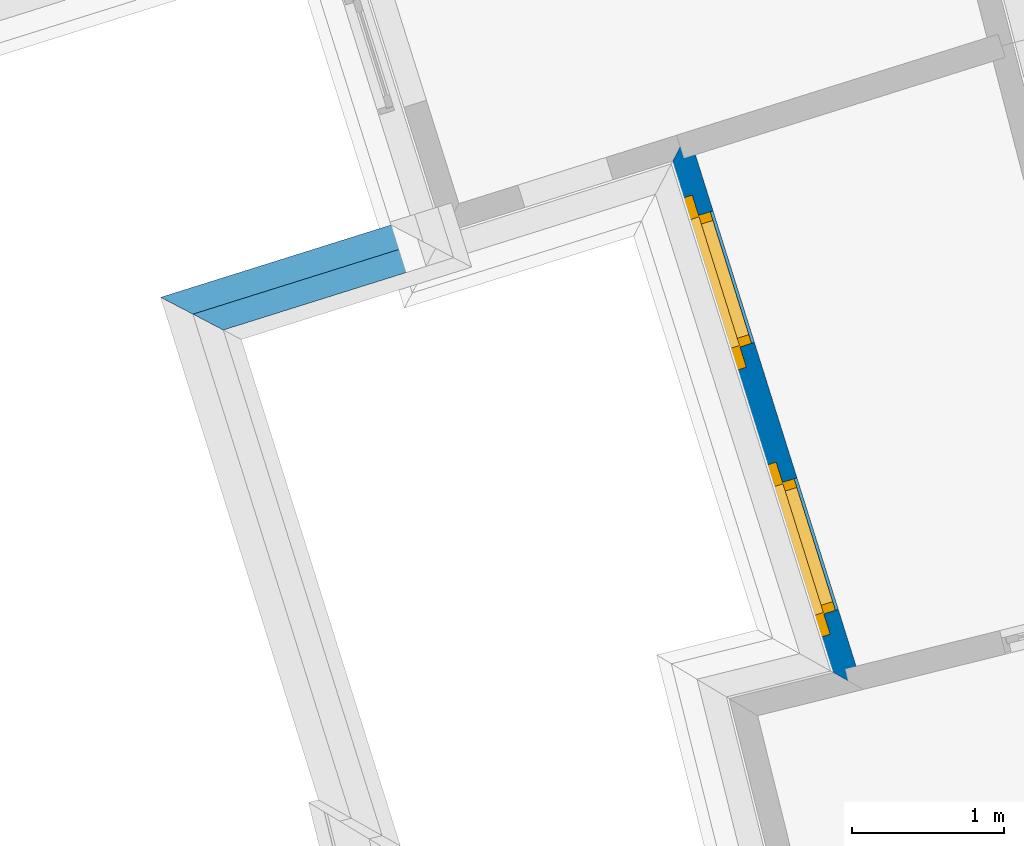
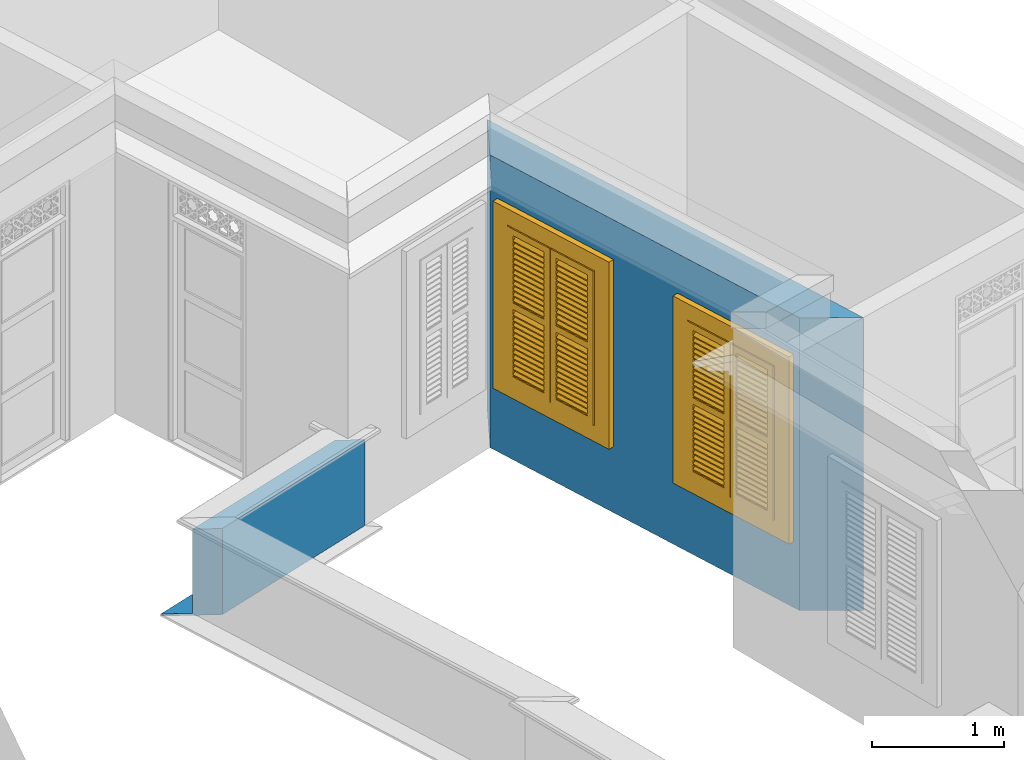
# One storey, part 8 of 13: 2 walls, 2 windows, 2 openings.
"""IFC4 building model written with IfcOpenShell, lengths in metres."""

from ifc_helpers import new_model, si_unit, frame, origin, origin_with_axes, place, context, subcontext, project, spatial, polyline, outline, extrude, clip, halfspace, faceted_brep, source, transform, mapped, material, layer, layer_set, layer_usage, material_profile, profile_set, profile_usage, type_object, type_shapes, element, fill, save


model = new_model("IFC4")

# Units and contexts
model_context = context("Model", 3, world=origin_with_axes())
body_context = subcontext(model_context, "Body", "Model", "MODEL_VIEW")
ifc_project = project(units=[si_unit("PLANEANGLEUNIT", "RADIAN"), si_unit("MASSUNIT", "GRAM", prefix="KILO"), si_unit("FORCEUNIT", "NEWTON", prefix="KILO"), si_unit("LENGTHUNIT", "METRE"), si_unit("AREAUNIT", "SQUARE_METRE"), si_unit("VOLUMEUNIT", "CUBIC_METRE")], contexts=[model_context, model_context])

# Site, building, storey
site_placement = place(None, origin_with_axes())
site = spatial("IfcSite", under=ifc_project, at=site_placement, Name="Site plot-0", CompositionType="ELEMENT")
building_placement = place(None, origin_with_axes())
building = spatial("IfcBuilding", under=site, at=building_placement, Name="Building plot-0", CompositionType="ELEMENT")
storey_placement = place(None, frame((0.0, 0.0, 3.6), z_axis=(0.0, 0.0, 1.0), x_axis=(1.0, 0.0, 0.0)))
storey = spatial("IfcBuildingStorey", under=building, at=storey_placement, Name="plot-0 1", CompositionType="ELEMENT", Elevation=3.6)

# Wall, openings, windows
ifc_material = material(Name="Masonry")
ifc_layer = layer(ifc_material, 0.33, ventilated=False)
ifc_layer_set = layer_set([ifc_layer], Name="exterior_0.08_0.25")
ifc_layer_usage = layer_usage(ifc_layer_set, "AXIS2", "POSITIVE", -0.25)
wall_type_1 = type_object("IfcWallType", Name="exterior_0.08_0.25", PredefinedType="SOLIDWALL", material=ifc_layer_set)
wall_1_placement = place(storey_placement, frame((6.33844303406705, 9.76988483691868, 0.0), z_axis=(0.0, 0.0, 1.0), x_axis=(0.299724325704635, -0.954025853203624, 0.0)))
wall_1 = element("IfcWall", 1, at=wall_1_placement, inside=storey, type_object=wall_type_1, material=ifc_layer_usage, Name="exterior", context=body_context, shape_type="SweptSolid", body=[
    extrude(outline(polyline([(-0.0799999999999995, 0.08), (0.249999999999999, -0.250000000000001), (3.4270756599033, -0.25), (3.77777085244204, 0.0799999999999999), (-0.0799999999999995, 0.08)])), origin_with_axes(), (0.0, 0.0, 1.0), 2.7),
])
opening_1_placement = place(wall_1_placement, frame((0.468188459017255, 0.0, 0.75)))
opening_1 = element("IfcOpeningElement", 2, at=opening_1_placement, cuts=wall_1, Name="My Opening", ObjectType="Opening", context=body_context, shape_type="SweptSolid", body=[
    extrude(outline(polyline([(0.0, -0.270000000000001), (0.910000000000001, -0.270000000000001), (0.91, 1.1), (-1.66533453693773e-16, 1.1), (0.0, -0.270000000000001)])), origin_with_axes(), (0.0, 0.0, 1.0), 1.445),
])
opening_2_placement = place(wall_1_placement, frame((2.31456537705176, 0.0, 0.75)))
opening_2 = element("IfcOpeningElement", 3, at=opening_2_placement, cuts=wall_1, Name="My Opening", ObjectType="Opening", context=body_context, shape_type="SweptSolid", body=[
    extrude(outline(polyline([(0.0, -0.27), (0.91, -0.27), (0.91, 1.1), (0.0, 1.1), (0.0, -0.27)])), origin_with_axes(), (0.0, 0.0, 1.0), 1.445),
])
window_type = type_object("IfcWindowType", Name="shuttered_shorter", PartitioningType="DOUBLE_PANEL_HORIZONTAL", PredefinedType="NOTDEFINED")
shared_shape = source(origin(), body_context, "Body", "Brep", [
    faceted_brep([(0.393, 0.0, 0.622), (0.074, 0.0, 0.622), (0.074, 0.0, 0.632), (0.393, 0.0, 0.632), (0.074, -0.04, 0.592), (0.393, -0.04, 0.592), (0.393, -0.04, 0.582), (0.074, -0.04, 0.582), (0.517, 0.0, 0.682), (0.836, 0.0, 0.682), (0.836, 0.0, 0.672), (0.517, 0.0, 0.672), (0.517, -0.04, 0.642), (0.836, -0.04, 0.642), (0.836, -0.04, 0.632), (0.517, -0.04, 0.632), (0.517, 0.0, 0.632), (0.836, 0.0, 0.632), (0.836, 0.0, 0.622), (0.517, 0.0, 0.622), (0.517, -0.04, 0.592), (0.836, -0.04, 0.592), (0.836, -0.04, 0.582), (0.517, -0.04, 0.582), (0.517, 0.0, 0.232), (0.836, 0.0, 0.232), (0.836, 0.0, 0.222), (0.517, 0.0, 0.222), (0.517, -0.04, 0.192), (0.836, -0.04, 0.192), (0.836, -0.04, 0.182), (0.517, -0.04, 0.182), (0.517, 0.0, 0.532), (0.836, 0.0, 0.532), (0.836, 0.0, 0.522), (0.517, 0.0, 0.522), (0.517, -0.04, 0.492), (0.836, -0.04, 0.492), (0.836, -0.04, 0.482), (0.517, -0.04, 0.482), (0.517, 0.0, 0.482), (0.836, 0.0, 0.482), (0.836, 0.0, 0.472), (0.517, 0.0, 0.472), (0.517, -0.04, 0.442), (0.836, -0.04, 0.442), (0.836, -0.04, 0.432), (0.517, -0.04, 0.432), (0.517, 0.0, 0.582), (0.836, 0.0, 0.582), (0.836, 0.0, 0.572), (0.517, 0.0, 0.572), (0.517, -0.04, 0.542), (0.836, -0.04, 0.542), (0.836, -0.04, 0.532), (0.517, -0.04, 0.532), (0.517, 0.0, 0.182), (0.836, 0.0, 0.182), (0.836, 0.0, 0.172), (0.517, 0.0, 0.172), (0.517, -0.04, 0.142), (0.836, -0.04, 0.142), (0.836, -0.04, 0.132), (0.517, -0.04, 0.132), (0.517, 0.0, 0.382), (0.836, 0.0, 0.382), (0.836, 0.0, 0.372), (0.517, 0.0, 0.372), (0.517, -0.04, 0.342), (0.836, -0.04, 0.342), (0.836, -0.04, 0.332), (0.517, -0.04, 0.332), (0.517, 0.0, 0.432), (0.836, 0.0, 0.432), (0.836, 0.0, 0.422), (0.517, 0.0, 0.422), (0.517, -0.04, 0.392), (0.836, -0.04, 0.392), (0.836, -0.04, 0.382), (0.517, -0.04, 0.382), (0.517, 0.0, 0.132), (0.836, 0.0, 0.132), (0.836, 0.0, 0.122), (0.517, 0.0, 0.122), (0.517, -0.04, 0.092), (0.836, -0.04, 0.092), (0.836, -0.04, 0.082), (0.517, -0.04, 0.082), (0.517, 0.0, 0.282), (0.836, 0.0, 0.282), (0.836, 0.0, 0.272), (0.517, 0.0, 0.272), (0.517, -0.04, 0.242), (0.836, -0.04, 0.242), (0.836, -0.04, 0.232), (0.517, -0.04, 0.232), (0.517, 0.0, 0.332), (0.836, 0.0, 0.332), (0.836, 0.0, 0.322), (0.517, 0.0, 0.322), (0.517, -0.04, 0.292), (0.836, -0.04, 0.292), (0.836, -0.04, 0.282), (0.517, -0.04, 0.282), (0.517, 0.0, 1.362667), (0.836, 0.0, 1.362667), (0.836, 0.0, 1.352667), (0.517, 0.0, 1.352667), (0.517, -0.04, 1.322667), (0.836, -0.04, 1.322667), (0.836, -0.04, 1.312667), (0.517, -0.04, 1.312667), (0.517, 0.0, 1.312667), (0.836, 0.0, 1.312667), (0.836, 0.0, 1.302667), (0.517, 0.0, 1.302667), (0.517, -0.04, 1.272667), (0.836, -0.04, 1.272667), (0.836, -0.04, 1.262667), (0.517, -0.04, 1.262667), (0.517, 0.0, 0.912667), (0.836, 0.0, 0.912667), (0.836, 0.0, 0.902667), (0.517, 0.0, 0.902667), (0.517, -0.04, 0.872667), (0.836, -0.04, 0.872667), (0.836, -0.04, 0.862667), (0.517, -0.04, 0.862667), (0.517, 0.0, 1.212667), (0.836, 0.0, 1.212667), (0.836, 0.0, 1.202667), (0.517, 0.0, 1.202667), (0.517, -0.04, 1.172667), (0.836, -0.04, 1.172667), (0.836, -0.04, 1.162667), (0.517, -0.04, 1.162667), (0.517, 0.0, 1.162667), (0.836, 0.0, 1.162667), (0.836, 0.0, 1.152667), (0.517, 0.0, 1.152667), (0.517, -0.04, 1.122667), (0.836, -0.04, 1.122667), (0.836, -0.04, 1.112667), (0.517, -0.04, 1.112667), (0.517, 0.0, 1.262667), (0.836, 0.0, 1.262667), (0.836, 0.0, 1.252667), (0.517, 0.0, 1.252667), (0.517, -0.04, 1.222667), (0.836, -0.04, 1.222667), (0.836, -0.04, 1.212667), (0.517, -0.04, 1.212667), (0.517, 0.0, 0.862667), (0.836, 0.0, 0.862667), (0.836, 0.0, 0.852667), (0.517, 0.0, 0.852667), (0.517, -0.04, 0.822667), (0.836, -0.04, 0.822667), (0.836, -0.04, 0.812667), (0.517, -0.04, 0.812667), (0.517, 0.0, 1.062667), (0.836, 0.0, 1.062667), (0.836, 0.0, 1.052667), (0.517, 0.0, 1.052667), (0.517, -0.04, 1.022667), (0.836, -0.04, 1.022667), (0.836, -0.04, 1.012667), (0.517, -0.04, 1.012667), (0.517, 0.0, 1.112667), (0.836, 0.0, 1.112667), (0.836, 0.0, 1.102667), (0.517, 0.0, 1.102667), (0.517, -0.04, 1.072667), (0.836, -0.04, 1.072667), (0.836, -0.04, 1.062667), (0.517, -0.04, 1.062667), (0.517, 0.0, 0.812667), (0.836, 0.0, 0.812667), (0.836, 0.0, 0.802667), (0.517, 0.0, 0.802667), (0.517, -0.04, 0.772667), (0.836, -0.04, 0.772667), (0.836, -0.04, 0.762667), (0.517, -0.04, 0.762667), (0.517, 0.0, 0.962667), (0.836, 0.0, 0.962667), (0.836, 0.0, 0.952667), (0.517, 0.0, 0.952667), (0.517, -0.04, 0.922667), (0.836, -0.04, 0.922667), (0.836, -0.04, 0.912667), (0.517, -0.04, 0.912667), (0.517, 0.0, 1.012667), (0.836, 0.0, 1.012667), (0.836, 0.0, 1.002667), (0.517, 0.0, 1.002667), (0.517, -0.04, 0.972667), (0.836, -0.04, 0.972667), (0.836, -0.04, 0.962667), (0.517, -0.04, 0.962667), (0.074, 0.0, 0.682), (0.393, 0.0, 0.682), (0.393, 0.0, 0.672), (0.074, 0.0, 0.672), (0.074, -0.04, 0.642), (0.393, -0.04, 0.642), (0.393, -0.04, 0.632), (0.074, -0.04, 0.632), (0.074, 0.0, 0.232), (0.393, 0.0, 0.232), (0.393, 0.0, 0.222), (0.074, 0.0, 0.222), (0.074, -0.04, 0.192), (0.393, -0.04, 0.192), (0.393, -0.04, 0.182), (0.074, -0.04, 0.182), (0.074, 0.0, 0.532), (0.393, 0.0, 0.532), (0.393, 0.0, 0.522), (0.074, 0.0, 0.522), (0.074, -0.04, 0.492), (0.393, -0.04, 0.492), (0.393, -0.04, 0.482), (0.074, -0.04, 0.482), (0.074, 0.0, 0.482), (0.393, 0.0, 0.482), (0.393, 0.0, 0.472), (0.074, 0.0, 0.472), (0.074, -0.04, 0.442), (0.393, -0.04, 0.442), (0.393, -0.04, 0.432), (0.074, -0.04, 0.432), (0.074, 0.0, 0.582), (0.393, 0.0, 0.582), (0.393, 0.0, 0.572), (0.074, 0.0, 0.572), (0.074, -0.04, 0.542), (0.393, -0.04, 0.542), (0.393, -0.04, 0.532), (0.074, -0.04, 0.532), (0.074, 0.0, 0.182), (0.393, 0.0, 0.182), (0.393, 0.0, 0.172), (0.074, 0.0, 0.172), (0.074, -0.04, 0.142), (0.393, -0.04, 0.142), (0.393, -0.04, 0.132), (0.074, -0.04, 0.132), (0.074, 0.0, 0.382), (0.393, 0.0, 0.382), (0.393, 0.0, 0.372), (0.074, 0.0, 0.372), (0.074, -0.04, 0.342), (0.393, -0.04, 0.342), (0.393, -0.04, 0.332), (0.074, -0.04, 0.332), (0.074, 0.0, 0.432), (0.393, 0.0, 0.432), (0.393, 0.0, 0.422), (0.074, 0.0, 0.422), (0.074, -0.04, 0.392), (0.393, -0.04, 0.392), (0.393, -0.04, 0.382), (0.074, -0.04, 0.382), (0.074, 0.0, 0.132), (0.393, 0.0, 0.132), (0.393, 0.0, 0.122), (0.074, 0.0, 0.122), (0.074, -0.04, 0.092), (0.393, -0.04, 0.092), (0.393, -0.04, 0.082), (0.074, -0.04, 0.082), (0.074, 0.0, 0.282), (0.393, 0.0, 0.282), (0.393, 0.0, 0.272), (0.074, 0.0, 0.272), (0.074, -0.04, 0.242), (0.393, -0.04, 0.242), (0.393, -0.04, 0.232), (0.074, -0.04, 0.232), (0.074, 0.0, 0.332), (0.393, 0.0, 0.332), (0.393, 0.0, 0.322), (0.074, 0.0, 0.322), (0.074, -0.04, 0.292), (0.393, -0.04, 0.292), (0.393, -0.04, 0.282), (0.074, -0.04, 0.282), (0.074, 0.0, 1.362667), (0.393, 0.0, 1.362667), (0.393, 0.0, 1.352667), (0.074, 0.0, 1.352667), (0.074, -0.04, 1.322667), (0.393, -0.04, 1.322667), (0.393, -0.04, 1.312667), (0.074, -0.04, 1.312667), (0.074, 0.0, 1.312667), (0.393, 0.0, 1.312667), (0.393, 0.0, 1.302667), (0.074, 0.0, 1.302667), (0.074, -0.04, 1.272667), (0.393, -0.04, 1.272667), (0.393, -0.04, 1.262667), (0.074, -0.04, 1.262667), (0.074, 0.0, 0.912667), (0.393, 0.0, 0.912667), (0.393, 0.0, 0.902667), (0.074, 0.0, 0.902667), (0.074, -0.04, 0.872667), (0.393, -0.04, 0.872667), (0.393, -0.04, 0.862667), (0.074, -0.04, 0.862667), (0.074, 0.0, 1.212667), (0.393, 0.0, 1.212667), (0.393, 0.0, 1.202667), (0.074, 0.0, 1.202667), (0.074, -0.04, 1.172667), (0.393, -0.04, 1.172667), (0.393, -0.04, 1.162667), (0.074, -0.04, 1.162667), (0.074, 0.0, 1.162667), (0.393, 0.0, 1.162667), (0.393, 0.0, 1.152667), (0.074, 0.0, 1.152667), (0.074, -0.04, 1.122667), (0.393, -0.04, 1.122667), (0.393, -0.04, 1.112667), (0.074, -0.04, 1.112667), (0.074, 0.0, 1.262667), (0.393, 0.0, 1.262667), (0.393, 0.0, 1.252667), (0.074, 0.0, 1.252667), (0.074, -0.04, 1.222667), (0.393, -0.04, 1.222667), (0.393, -0.04, 1.212667), (0.074, -0.04, 1.212667), (0.074, 0.0, 0.862667), (0.393, 0.0, 0.862667), (0.393, 0.0, 0.852667), (0.074, 0.0, 0.852667), (0.074, -0.04, 0.822667), (0.393, -0.04, 0.822667), (0.393, -0.04, 0.812667), (0.074, -0.04, 0.812667), (0.074, 0.0, 1.062667), (0.393, 0.0, 1.062667), (0.393, 0.0, 1.052667), (0.074, 0.0, 1.052667), (0.074, -0.04, 1.022667), (0.393, -0.04, 1.022667), (0.393, -0.04, 1.012667), (0.074, -0.04, 1.012667), (0.074, 0.0, 1.112667), (0.393, 0.0, 1.112667), (0.393, 0.0, 1.102667), (0.074, 0.0, 1.102667), (0.074, -0.04, 1.072667), (0.393, -0.04, 1.072667), (0.393, -0.04, 1.062667), (0.074, -0.04, 1.062667), (0.074, 0.0, 0.812667), (0.393, 0.0, 0.812667), (0.393, 0.0, 0.802667), (0.074, 0.0, 0.802667), (0.074, -0.04, 0.772667), (0.393, -0.04, 0.772667), (0.393, -0.04, 0.762667), (0.074, -0.04, 0.762667), (0.074, 0.0, 0.962667), (0.393, 0.0, 0.962667), (0.393, 0.0, 0.952667), (0.074, 0.0, 0.952667), (0.074, -0.04, 0.922667), (0.393, -0.04, 0.922667), (0.393, -0.04, 0.912667), (0.074, -0.04, 0.912667), (0.074, 0.0, 1.012667), (0.393, 0.0, 1.012667), (0.393, 0.0, 1.002667), (0.074, 0.0, 1.002667), (0.074, -0.04, 0.972667), (0.393, -0.04, 0.972667), (0.393, -0.04, 0.962667), (0.074, -0.04, 0.962667), (0.517, -0.04, 0.072), (0.457, -0.04, 0.012), (0.896, -0.04, 0.012), (0.836, -0.04, 0.072), (0.457, -0.04, 0.692667), (0.517, -0.04, 0.692667), (0.457, 0.0, 0.012), (0.896, 0.0, 0.012), (0.836, -0.04, 0.692667), (0.896, -0.04, 0.692667), (0.836, 0.0, 0.072), (0.517, 0.0, 0.072), (0.457, 0.0, 0.692667), (0.517, 0.0, 0.692667), (0.517, -0.04, 0.752666), (0.457, -0.04, 0.752666), (0.896, 0.0, 0.692667), (0.836, 0.0, 0.692667), (0.836, -0.04, 0.752666), (0.896, -0.04, 0.752666), (0.457, 0.0, 0.752666), (0.457, -0.04, 1.433333), (0.517, -0.04, 1.373333), (0.896, 0.0, 0.752666), (0.836, -0.04, 1.373333), (0.896, -0.04, 1.433333), (0.457, 0.0, 1.433333), (0.517, 0.0, 0.752666), (0.836, 0.0, 0.752666), (0.517, 0.0, 1.373333), (0.896, 0.0, 1.433333), (0.836, 0.0, 1.373333), (0.074, -0.04, 0.072), (0.014, -0.04, 0.012), (0.453, -0.04, 0.012), (0.393, -0.04, 0.072), (0.014, -0.04, 0.692667), (0.074, -0.04, 0.692667), (0.014, 0.0, 0.012), (0.453, 0.0, 0.012), (0.393, -0.04, 0.692667), (0.453, -0.04, 0.692667), (0.393, 0.0, 0.072), (0.074, 0.0, 0.072), (0.014, 0.0, 0.692667), (0.074, 0.0, 0.692667), (0.074, -0.04, 0.752666), (0.014, -0.04, 0.752666), (0.453, 0.0, 0.692667), (0.393, 0.0, 0.692667), (0.393, -0.04, 0.752666), (0.453, -0.04, 0.752666), (0.014, 0.0, 0.752666), (0.014, -0.04, 1.433333), (0.074, -0.04, 1.373333), (0.453, 0.0, 0.752666), (0.393, -0.04, 1.373333), (0.453, -0.04, 1.433333), (0.014, 0.0, 1.433333), (0.074, 0.0, 0.752666), (0.393, 0.0, 0.752666), (0.074, 0.0, 1.373333), (0.453, 0.0, 1.433333), (0.393, 0.0, 1.373333), (0.0, 0.33, 1.445), (0.91, 0.33, 1.445), (0.85, 0.33, 1.385), (0.06, 0.33, 1.385), (0.91, 0.25, 1.445), (0.0, 0.25, 1.445), (0.91, 0.25, 1.445), (0.85, 0.33, 0.06), (0.91, 0.33, 0.0), (0.85, 0.25, 1.385), (0.06, 0.25, 1.385), (0.0, 0.33, 0.0), (0.06, 0.33, 0.06), (0.0, 0.25, 0.0), (0.91, 0.25, 0.0), (0.85, 0.25, 0.06), (0.06, 0.25, 0.06), (1.05, 0.25, 1.585), (-0.14, 0.25, 1.585), (-0.14, -0.03, 1.585), (1.05, -0.03, 1.585), (0.9, -0.03, 1.435), (0.01, -0.03, 1.435), (0.01, 0.25, 1.435), (0.9, 0.25, 1.435), (0.9, 0.25, 0.01), (0.9, -0.03, 0.01), (1.05, -0.03, -0.14), (1.05, 0.25, -0.14), (0.01, -0.03, 0.01), (0.01, 0.25, 0.01), (-0.14, -0.03, -0.14), (-0.14, 0.25, -0.14)], [[[0, 1, 2, 3]], [[4, 5, 3, 2]], [[5, 6, 0, 3]], [[1, 0, 6, 7]], [[2, 1, 7, 4]], [[5, 4, 7, 6]], [[8, 9, 10, 11]], [[12, 13, 9, 8]], [[13, 14, 10, 9]], [[14, 15, 11, 10]], [[15, 12, 8, 11]], [[13, 12, 15, 14]], [[16, 17, 18, 19]], [[20, 21, 17, 16]], [[21, 22, 18, 17]], [[22, 23, 19, 18]], [[23, 20, 16, 19]], [[21, 20, 23, 22]], [[24, 25, 26, 27]], [[28, 29, 25, 24]], [[29, 30, 26, 25]], [[30, 31, 27, 26]], [[31, 28, 24, 27]], [[29, 28, 31, 30]], [[32, 33, 34, 35]], [[36, 37, 33, 32]], [[37, 38, 34, 33]], [[38, 39, 35, 34]], [[39, 36, 32, 35]], [[37, 36, 39, 38]], [[40, 41, 42, 43]], [[44, 45, 41, 40]], [[45, 46, 42, 41]], [[46, 47, 43, 42]], [[47, 44, 40, 43]], [[45, 44, 47, 46]], [[48, 49, 50, 51]], [[52, 53, 49, 48]], [[53, 54, 50, 49]], [[54, 55, 51, 50]], [[55, 52, 48, 51]], [[53, 52, 55, 54]], [[56, 57, 58, 59]], [[60, 61, 57, 56]], [[61, 62, 58, 57]], [[62, 63, 59, 58]], [[63, 60, 56, 59]], [[61, 60, 63, 62]], [[64, 65, 66, 67]], [[68, 69, 65, 64]], [[69, 70, 66, 65]], [[70, 71, 67, 66]], [[71, 68, 64, 67]], [[69, 68, 71, 70]], [[72, 73, 74, 75]], [[76, 77, 73, 72]], [[77, 78, 74, 73]], [[78, 79, 75, 74]], [[79, 76, 72, 75]], [[77, 76, 79, 78]], [[80, 81, 82, 83]], [[84, 85, 81, 80]], [[85, 86, 82, 81]], [[86, 87, 83, 82]], [[87, 84, 80, 83]], [[85, 84, 87, 86]], [[88, 89, 90, 91]], [[92, 93, 89, 88]], [[93, 94, 90, 89]], [[94, 95, 91, 90]], [[95, 92, 88, 91]], [[93, 92, 95, 94]], [[96, 97, 98, 99]], [[100, 101, 97, 96]], [[101, 102, 98, 97]], [[102, 103, 99, 98]], [[103, 100, 96, 99]], [[101, 100, 103, 102]], [[104, 105, 106, 107]], [[108, 109, 105, 104]], [[109, 110, 106, 105]], [[110, 111, 107, 106]], [[111, 108, 104, 107]], [[109, 108, 111, 110]], [[112, 113, 114, 115]], [[116, 117, 113, 112]], [[117, 118, 114, 113]], [[118, 119, 115, 114]], [[119, 116, 112, 115]], [[117, 116, 119, 118]], [[120, 121, 122, 123]], [[124, 125, 121, 120]], [[125, 126, 122, 121]], [[126, 127, 123, 122]], [[127, 124, 120, 123]], [[125, 124, 127, 126]], [[128, 129, 130, 131]], [[132, 133, 129, 128]], [[133, 134, 130, 129]], [[134, 135, 131, 130]], [[135, 132, 128, 131]], [[133, 132, 135, 134]], [[136, 137, 138, 139]], [[140, 141, 137, 136]], [[141, 142, 138, 137]], [[142, 143, 139, 138]], [[139, 143, 140, 136]], [[141, 140, 143, 142]], [[144, 145, 146, 147]], [[148, 149, 145, 144]], [[149, 150, 146, 145]], [[150, 151, 147, 146]], [[151, 148, 144, 147]], [[149, 148, 151, 150]], [[152, 153, 154, 155]], [[156, 157, 153, 152]], [[157, 158, 154, 153]], [[158, 159, 155, 154]], [[159, 156, 152, 155]], [[157, 156, 159, 158]], [[160, 161, 162, 163]], [[164, 165, 161, 160]], [[165, 166, 162, 161]], [[166, 167, 163, 162]], [[167, 164, 160, 163]], [[165, 164, 167, 166]], [[168, 169, 170, 171]], [[172, 173, 169, 168]], [[173, 174, 170, 169]], [[174, 175, 171, 170]], [[175, 172, 168, 171]], [[173, 172, 175, 174]], [[176, 177, 178, 179]], [[180, 181, 177, 176]], [[181, 182, 178, 177]], [[182, 183, 179, 178]], [[183, 180, 176, 179]], [[181, 180, 183, 182]], [[184, 185, 186, 187]], [[188, 189, 185, 184]], [[189, 190, 186, 185]], [[190, 191, 187, 186]], [[191, 188, 184, 187]], [[189, 188, 191, 190]], [[192, 193, 194, 195]], [[196, 197, 193, 192]], [[197, 198, 194, 193]], [[198, 199, 195, 194]], [[199, 196, 192, 195]], [[197, 196, 199, 198]], [[200, 201, 202, 203]], [[204, 205, 201, 200]], [[205, 206, 202, 201]], [[206, 207, 203, 202]], [[207, 204, 200, 203]], [[205, 204, 207, 206]], [[208, 209, 210, 211]], [[212, 213, 209, 208]], [[213, 214, 210, 209]], [[214, 215, 211, 210]], [[215, 212, 208, 211]], [[213, 212, 215, 214]], [[216, 217, 218, 219]], [[220, 221, 217, 216]], [[221, 222, 218, 217]], [[222, 223, 219, 218]], [[223, 220, 216, 219]], [[221, 220, 223, 222]], [[224, 225, 226, 227]], [[228, 229, 225, 224]], [[229, 230, 226, 225]], [[230, 231, 227, 226]], [[231, 228, 224, 227]], [[229, 228, 231, 230]], [[232, 233, 234, 235]], [[236, 237, 233, 232]], [[237, 238, 234, 233]], [[238, 239, 235, 234]], [[239, 236, 232, 235]], [[237, 236, 239, 238]], [[240, 241, 242, 243]], [[244, 245, 241, 240]], [[245, 246, 242, 241]], [[246, 247, 243, 242]], [[247, 244, 240, 243]], [[245, 244, 247, 246]], [[248, 249, 250, 251]], [[252, 253, 249, 248]], [[253, 254, 250, 249]], [[254, 255, 251, 250]], [[255, 252, 248, 251]], [[253, 252, 255, 254]], [[256, 257, 258, 259]], [[260, 261, 257, 256]], [[261, 262, 258, 257]], [[262, 263, 259, 258]], [[263, 260, 256, 259]], [[261, 260, 263, 262]], [[264, 265, 266, 267]], [[268, 269, 265, 264]], [[269, 270, 266, 265]], [[270, 271, 267, 266]], [[271, 268, 264, 267]], [[269, 268, 271, 270]], [[272, 273, 274, 275]], [[276, 277, 273, 272]], [[277, 278, 274, 273]], [[278, 279, 275, 274]], [[279, 276, 272, 275]], [[277, 276, 279, 278]], [[280, 281, 282, 283]], [[284, 285, 281, 280]], [[285, 286, 282, 281]], [[286, 287, 283, 282]], [[287, 284, 280, 283]], [[285, 284, 287, 286]], [[288, 289, 290, 291]], [[292, 293, 289, 288]], [[293, 294, 290, 289]], [[294, 295, 291, 290]], [[295, 292, 288, 291]], [[293, 292, 295, 294]], [[296, 297, 298, 299]], [[300, 301, 297, 296]], [[301, 302, 298, 297]], [[302, 303, 299, 298]], [[303, 300, 296, 299]], [[301, 300, 303, 302]], [[304, 305, 306, 307]], [[308, 309, 305, 304]], [[309, 310, 306, 305]], [[310, 311, 307, 306]], [[311, 308, 304, 307]], [[309, 308, 311, 310]], [[312, 313, 314, 315]], [[316, 317, 313, 312]], [[317, 318, 314, 313]], [[318, 319, 315, 314]], [[319, 316, 312, 315]], [[317, 316, 319, 318]], [[320, 321, 322, 323]], [[324, 325, 321, 320]], [[325, 326, 322, 321]], [[326, 327, 323, 322]], [[327, 324, 320, 323]], [[325, 324, 327, 326]], [[328, 329, 330, 331]], [[332, 333, 329, 328]], [[333, 334, 330, 329]], [[334, 335, 331, 330]], [[335, 332, 328, 331]], [[333, 332, 335, 334]], [[336, 337, 338, 339]], [[340, 341, 337, 336]], [[341, 342, 338, 337]], [[342, 343, 339, 338]], [[343, 340, 336, 339]], [[341, 340, 343, 342]], [[344, 345, 346, 347]], [[348, 349, 345, 344]], [[349, 350, 346, 345]], [[350, 351, 347, 346]], [[351, 348, 344, 347]], [[349, 348, 351, 350]], [[352, 353, 354, 355]], [[356, 357, 353, 352]], [[357, 358, 354, 353]], [[358, 359, 355, 354]], [[359, 356, 352, 355]], [[357, 356, 359, 358]], [[360, 361, 362, 363]], [[364, 365, 361, 360]], [[365, 366, 362, 361]], [[366, 367, 363, 362]], [[367, 364, 360, 363]], [[365, 364, 367, 366]], [[368, 369, 370, 371]], [[372, 373, 369, 368]], [[373, 374, 370, 369]], [[374, 375, 371, 370]], [[375, 372, 368, 371]], [[373, 372, 375, 374]], [[376, 377, 378, 379]], [[380, 381, 377, 376]], [[381, 382, 378, 377]], [[382, 383, 379, 378]], [[383, 380, 376, 379]], [[381, 380, 383, 382]], [[384, 385, 386, 387]], [[388, 385, 384, 389]], [[390, 391, 386, 385]], [[392, 387, 386, 393]], [[384, 387, 394, 395]], [[390, 385, 388, 396]], [[389, 384, 395, 397]], [[389, 398, 399, 388]], [[390, 395, 394, 391]], [[400, 393, 386, 391]], [[387, 392, 401, 394]], [[402, 392, 393, 403]], [[396, 388, 399, 404]], [[390, 396, 397, 395]], [[392, 389, 397, 401]], [[398, 389, 392, 402]], [[405, 399, 398, 406]], [[394, 401, 400, 391]], [[407, 403, 393, 400]], [[408, 402, 403, 409]], [[404, 399, 405, 410]], [[411, 397, 396, 404]], [[397, 411, 412, 401]], [[398, 402, 412, 411]], [[406, 398, 411, 413]], [[405, 406, 408, 409]], [[401, 412, 407, 400]], [[414, 409, 403, 407]], [[402, 408, 415, 412]], [[405, 409, 414, 410]], [[404, 410, 413, 411]], [[408, 406, 413, 415]], [[412, 415, 414, 407]], [[413, 410, 414, 415]], [[416, 417, 418, 419]], [[420, 417, 416, 421]], [[422, 423, 418, 417]], [[424, 419, 418, 425]], [[416, 419, 426, 427]], [[422, 417, 420, 428]], [[421, 416, 427, 429]], [[421, 430, 431, 420]], [[422, 427, 426, 423]], [[432, 425, 418, 423]], [[419, 424, 433, 426]], [[434, 424, 425, 435]], [[428, 420, 431, 436]], [[422, 428, 429, 427]], [[424, 421, 429, 433]], [[430, 421, 424, 434]], [[437, 431, 430, 438]], [[426, 433, 432, 423]], [[439, 435, 425, 432]], [[440, 434, 435, 441]], [[436, 431, 437, 442]], [[443, 429, 428, 436]], [[429, 443, 444, 433]], [[430, 434, 444, 443]], [[438, 430, 443, 445]], [[437, 438, 440, 441]], [[433, 444, 439, 432]], [[446, 441, 435, 439]], [[434, 440, 447, 444]], [[437, 441, 446, 442]], [[436, 442, 445, 443]], [[440, 438, 445, 447]], [[444, 447, 446, 439]], [[445, 442, 446, 447]], [[448, 449, 450, 451]], [[452, 449, 448]], [[448, 453, 454]], [[448, 454, 452]], [[455, 450, 449, 456]], [[451, 450, 457, 458]], [[459, 448, 451, 460]], [[448, 459, 461, 453]], [[454, 453, 458, 457]], [[462, 452, 454]], [[454, 457, 463]], [[454, 463, 462]], [[456, 449, 452, 462]], [[450, 455, 463, 457]], [[456, 459, 460, 455]], [[460, 451, 458, 464]], [[459, 456, 462, 461]], [[464, 458, 453, 461]], [[461, 462, 463, 464]], [[455, 460, 464, 463]], [[465, 466, 467, 468]], [[469, 470, 471, 472]], [[473, 474, 469, 472]], [[465, 468, 475, 476]], [[470, 477, 478, 471]], [[474, 473, 478, 477]], [[474, 477, 479, 475]], [[470, 467, 479, 477]], [[470, 469, 468, 467]], [[474, 475, 468, 469]], [[471, 478, 480, 466]], [[473, 472, 465, 476]], [[473, 476, 480, 478]], [[466, 465, 472, 471]], [[480, 476, 475, 479]], [[480, 479, 467, 466]]]),
])
type_shapes(window_type, [shared_shape])
window_1_placement = place(storey_placement, frame((6.22118352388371, 9.2422953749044, 0.75), z_axis=(0.0, 0.0, 1.0), x_axis=(0.272749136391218, -0.868163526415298, 0.0)))
window_1 = element("IfcWindow", 4, at=window_1_placement, inside=storey, type_object=window_type, Name="toilet outside window", OverallHeight=1.445, OverallWidth=0.91, context=body_context, shape_type="MappedRepresentation", body=[
    mapped(shared_shape, transform((0.0, 0.0, 0.0), scale=1.0)),
])
fill(opening_1, window_1)
window_2_placement = place(storey_placement, frame((6.77458760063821, 7.48080406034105, 0.75), z_axis=(0.0, 0.0, 1.0), x_axis=(0.272749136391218, -0.868163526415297, 0.0)))
window_2 = element("IfcWindow", 5, at=window_2_placement, inside=storey, type_object=window_type, Name="toilet outside window", OverallHeight=1.445, OverallWidth=0.91, context=body_context, shape_type="MappedRepresentation", body=[
    mapped(shared_shape, transform((0.0, 0.0, 0.0), scale=1.0)),
])
fill(opening_2, window_2)

# Wall
ifc_material_profile = material_profile(None, outline(polyline([(0.25, 0.0), (0.25, 0.795), (0.09, 0.795), (0.09, 0.02), (-0.08, 0.02), (-0.08, 0.0), (0.25, 0.0)])))
ifc_profile_set = profile_set([ifc_material_profile])
ifc_profile_usage = profile_usage(ifc_profile_set)
wall_type_2 = type_object("IfcWallType", Name="parapet internal_0", PredefinedType="PARAPET", material=ifc_profile_set)
wall_2_placement = place(storey_placement, frame((5.48404256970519, 9.50145961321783, 0.0), z_axis=(-0.954025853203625, -0.29972432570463, 0.0), x_axis=(0.29972432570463, -0.954025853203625, 0.0)))
element("IfcWall", 6, at=wall_2_placement, inside=storey, type_object=wall_type_2, material=ifc_profile_usage, Name="parapet internal_0", context=body_context, shape_type="Clipping", body=[
    clip(clip(extrude(outline(polyline([(0.25, 0.0), (0.25, 0.795), (0.09, 0.795), (0.09, 0.02), (-0.08, 0.02), (-0.08, 0.0), (0.25, 0.0)])), origin_with_axes(), (0.0, 0.0, 1.0), 3.59291525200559), halfspace(frame((0.0, 0.0, 2.59291525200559), z_axis=(-0.707106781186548, 0.0, -0.707106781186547), x_axis=(0.0, 1.0, 0.0)), True)), halfspace(frame((0.0, 0.0, 1.0), z_axis=(-0.707106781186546, 0.0, -0.707106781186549), x_axis=(0.0, 1.0, 0.0)), False)),
])

save(model, "model.ifc")
